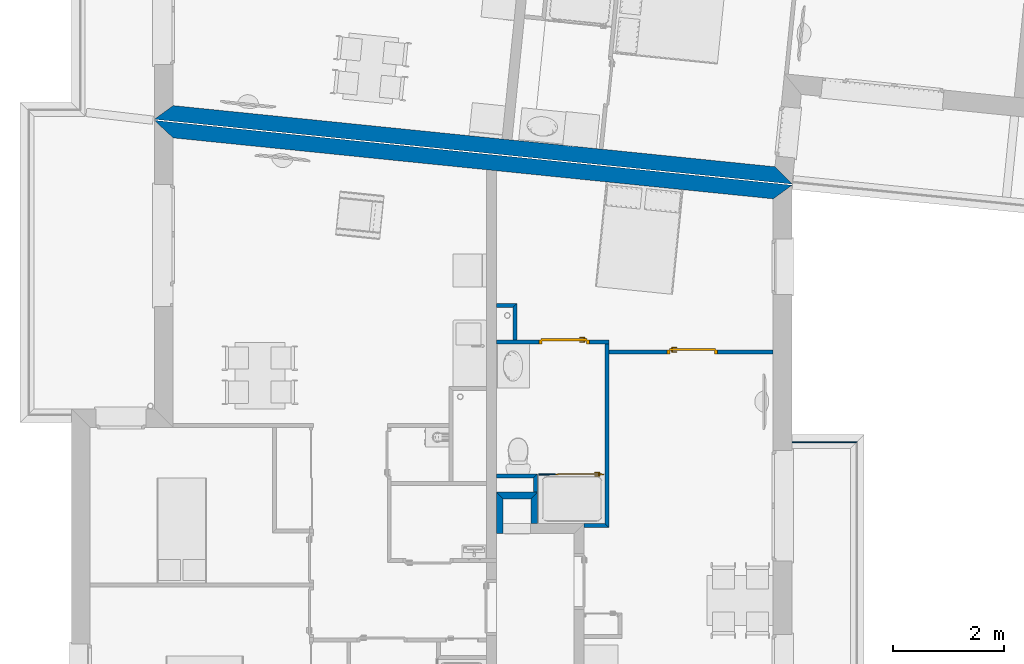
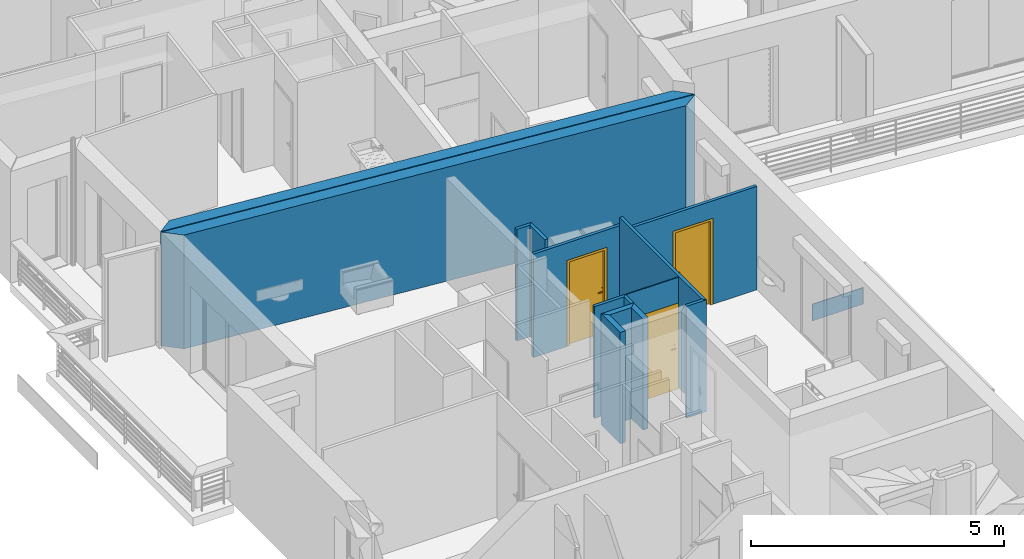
# One storey, part 43 of 164: 15 walls, 3 doors, 3 openings.
"""IFC2X3 building model written with IfcOpenShell, lengths in millimetres."""

from ifc_helpers import new_model, entity, si_unit, converted_unit, derived_unit, money_unit, direction, frame, origin_with_axes, origin_2d_with_axis, place, context, subcontext, project, spatial, polyline, rectangle, outline, extrude, faceted_brep, source, transform, mapped, material, layer, layer_set, layer_usage, type_object, element, fill, save


model = new_model("IFC2X3")

# Units and contexts
model_context = context("Model", 3, precision=0.01, world=origin_with_axes(), true_north=direction((0.0, 1.0)))
body_context = subcontext(model_context, "Body", "Model", "MODEL_VIEW")
ifc_project = project(units=[si_unit("LENGTHUNIT", "METRE", prefix="MILLI"), si_unit("AREAUNIT", "SQUARE_METRE"), si_unit("VOLUMEUNIT", "CUBIC_METRE"), converted_unit("PLANEANGLEUNIT", "DEGREE", entity("IfcPlaneAngleMeasure", 0.0174532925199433), si_unit("PLANEANGLEUNIT", "RADIAN"), dimensions=[0, 0, 0, 0, 0, 0, 0]), money_unit("USD"), converted_unit("TIMEUNIT", "Year", entity("IfcTimeMeasure", 31557600.0), si_unit("TIMEUNIT", "SECOND"), dimensions=[0, 0, 1, 0, 0, 0, 0]), si_unit("MASSUNIT", "GRAM", prefix="KILO"), si_unit("THERMODYNAMICTEMPERATUREUNIT", "DEGREE_CELSIUS"), si_unit("LUMINOUSINTENSITYUNIT", "LUMEN"), si_unit("ENERGYUNIT", "JOULE", prefix="MEGA"), derived_unit("THERMALCONDUCTANCEUNIT", [(si_unit("POWERUNIT", "WATT"), 1), (si_unit("LENGTHUNIT", "METRE"), -1), (si_unit("THERMODYNAMICTEMPERATUREUNIT", "KELVIN"), -1)]), derived_unit("SPECIFICHEATCAPACITYUNIT", [(si_unit("ENERGYUNIT", "JOULE"), 1), (si_unit("MASSUNIT", "GRAM", prefix="KILO"), -1), (si_unit("THERMODYNAMICTEMPERATUREUNIT", "KELVIN"), -1)]), derived_unit("MASSDENSITYUNIT", [(si_unit("MASSUNIT", "GRAM", prefix="KILO"), 1), (si_unit("VOLUMEUNIT", "CUBIC_METRE"), -1)])], contexts=[model_context])

# Site, building, storey
site_placement = place(None, origin_with_axes())
site = spatial("IfcSite", under=ifc_project, at=site_placement, Name="Site", CompositionType="ELEMENT")
building_placement = place(site_placement, origin_with_axes())
building = spatial("IfcBuilding", under=site, at=building_placement, Name="Bâtiment", CompositionType="ELEMENT")
storey_placement = place(building_placement, frame((0.0, 0.0, 5750.0), z_axis=(0.0, 0.0, 1.0), x_axis=(1.0, 0.0, 0.0)))
storey = spatial("IfcBuildingStorey", under=building, at=storey_placement, Name="Etage1", CompositionType="ELEMENT", Elevation=5750.0)

# Walls
ifc_material_1 = material(Name="Hachure solide 268963992")
ifc_layer_1 = layer(ifc_material_1, 70.0, ventilated="UNKNOWN")
ifc_layer_set_1 = layer_set([ifc_layer_1], Name="Cloison 70 0826278243")
ifc_layer_usage_1 = layer_usage(ifc_layer_set_1, "AXIS2", "NEGATIVE", 70.0)
wall_type_1 = type_object("IfcWallType", Name="Cloison 70 0826278243 70", PredefinedType="NOTDEFINED")
wall_1_placement = place(storey_placement, frame((2225054.796152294, -627577.8380544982, 0.0), z_axis=(0.0, 0.0, 1.0), x_axis=(0.0007691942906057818, 0.9999997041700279, 0.0)))
element("IfcWallStandardCase", 1, at=wall_1_placement, inside=storey, type_object=wall_type_1, material=ifc_layer_usage_1, Name="Mur-149", context=body_context, shape_type="SweptSolid", body=[
    extrude(outline(polyline([(0.0, 0.0), (330.478365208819, 0.0), (260.4245008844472, 70.00000000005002), (-0.01101605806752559, 70.00000000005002), (0.0, 0.0)])), origin_with_axes(), (0.0, 0.0, 1.0), 2700.0),
])
ifc_layer_usage_2 = layer_usage(ifc_layer_set_1, "AXIS2", "NEGATIVE", 70.0)
wall_2_placement = place(storey_placement, frame((2224682.35501324, -624827.5295410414, 0.0), z_axis=(0.0, 0.0, 1.0), x_axis=(0.0, 1.0, 0.0)))
element("IfcWallStandardCase", 2, at=wall_2_placement, inside=storey, type_object=wall_type_1, material=ifc_layer_usage_2, Name="Mur-149", context=body_context, shape_type="SweptSolid", body=[
    extrude(outline(polyline([(0.0, 0.0), (658.9671401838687, 0.0), (588.9671401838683, 70.00000000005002), (0.0, 70.00000000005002), (0.0, 0.0)])), origin_with_axes(), (0.0, 0.0, 1.0), 2700.0),
])
ifc_layer_usage_3 = layer_usage(ifc_layer_set_1, "AXIS2", "NEGATIVE", 70.0)
wall_3_placement = place(storey_placement, frame((2225055.050354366, -627247.3597870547, 0.0), z_axis=(0.0, 0.0, 1.0), x_axis=(-1.0, 0.0, 0.0)))
element("IfcWallStandardCase", 3, at=wall_3_placement, inside=storey, type_object=wall_type_1, material=ifc_layer_usage_3, Name="Mur-149", context=body_context, shape_type="SweptSolid", body=[
    extrude(outline(polyline([(1.13686837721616e-10, 0.0), (742.6999882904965, 0.0), (742.6995991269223, 70.00000000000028), (70.05386432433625, 70.00000000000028), (1.13686837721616e-10, 0.0)])), origin_with_axes(), (0.0, 0.0, 1.0), 2700.0),
])
ifc_layer_usage_4 = layer_usage(ifc_layer_set_1, "AXIS2", "NEGATIVE", 70.0)
wall_4_placement = place(storey_placement, frame((2226277.790394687, -628147.4571735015, 0.0), z_axis=(0.0, 0.0, 1.0), x_axis=(-1.0, 0.0, 0.0)))
element("IfcWallStandardCase", 4, at=wall_4_placement, inside=storey, type_object=wall_type_1, material=ifc_layer_usage_4, Name="Mur-149", context=body_context, shape_type="SweptSolid", body=[
    extrude(outline(polyline([(0.0, 0.0), (385.4720379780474, 0.0), (385.4720379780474, 70.00000000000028), (-70.00000000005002, 70.00000000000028), (0.0, 0.0)])), origin_with_axes(), (0.0, 0.0, 1.0), 2700.0),
])

# Wall, opening, door
ifc_layer_usage_5 = layer_usage(ifc_layer_set_1, "AXIS2", "NEGATIVE", 70.0)
wall_5_placement = place(storey_placement, frame((2229653.476038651, -625007.9594470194, 0.0), z_axis=(0.0, 0.0, 1.0), x_axis=(-1.0, 0.0, 0.0)))
wall_5 = element("IfcWallStandardCase", 5, at=wall_5_placement, inside=storey, type_object=wall_type_1, material=ifc_layer_usage_5, Name="Mur-149", context=body_context, shape_type="SweptSolid", body=[
    extrude(outline(polyline([(339.9999999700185, 0.0), (3305.685643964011, 0.0), (3305.685643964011, 70.00000000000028), (339.9999999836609, 70.00000000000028), (339.9999999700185, 0.0)])), origin_with_axes(), (0.0, 0.0, 1.0), 2500.0),
])
opening_1_placement = place(wall_5_placement, frame((1800.577135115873, 0.0, 0.0), z_axis=(0.0, 0.0, 1.0), x_axis=(1.0, 0.0, 0.0)))
opening_1 = element("IfcOpeningElement", 6, at=opening_1_placement, cuts=wall_5, Name="Por-293", context=body_context, shape_type="SweptSolid", body=[
    extrude(rectangle(XDim=910.0, YDim=2080.0, at=origin_2d_with_axis()), frame((0.0, 70.00000000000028, 1040.0), z_axis=(0.0, -1.0, 0.0), x_axis=(-1.0, 0.0, 0.0)), (0.0, 0.0, 1.0), 140.0),
])
door_style = type_object("IfcDoorStyle", Name="Porte_1v", ConstructionType="NOTDEFINED", OperationType="NOTDEFINED", ParameterTakesPrecedence=False, Sizeable=False)
shared_shape_1 = source(origin_with_axes(), body_context, "Body", "Brep", [
    faceted_brep([(455.0, 0.0, 0.0), (415.0000000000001, 0.0, 0.0), (415.0000000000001, 0.0, 2040.0), (-415.0000000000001, 0.0, 2040.0), (-415.0000000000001, 0.0, 0.0), (-455.0, 0.0, 0.0), (-455.0, 0.0, 2080.0), (455.0, 0.0, 2080.0), (455.0, -70.0, 0.0), (400.0, -70.0, 0.0), (400.0, -15.0, 0.0), (415.0000000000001, -15.0, 0.0), (415.0000000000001, -15.0, 2040.0), (-415.0000000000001, -15.0, 2040.0), (-415.0000000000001, -15.0, 0.0), (-400.0, -15.0, 0.0), (-400.0, -70.0, 0.0), (-455.0, -70.0, 0.0), (-455.0, -70.0, 2080.0), (455.0, -70.0, 2080.0), (-400.0, -70.0, 2025.0), (400.0, -70.0, 2025.0), (400.0, -15.0, 2025.0), (-400.0, -15.0, 2025.0)], [[[0, 1, 2, 3, 4, 5, 6, 7]], [[0, 8, 9, 10, 11, 1]], [[1, 11, 12, 2]], [[2, 12, 13, 3]], [[3, 13, 14, 4]], [[5, 4, 14, 15, 16, 17]], [[18, 6, 5, 17]], [[19, 7, 6, 18]], [[8, 0, 7, 19]], [[9, 8, 19, 18, 17, 16, 20, 21]], [[10, 9, 21, 22]], [[11, 10, 22, 23, 15, 14, 13, 12]], [[23, 20, 16, 15]], [[22, 21, 20, 23]]]),
    faceted_brep([(-350.0000000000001, -15.0, 900.0), (-390.0, -15.0, 900.0), (-390.0, -15.0, 1100.0), (-350.0000000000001, -15.0, 1100.0), (-350.0000000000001, -25.0, 900.0), (-390.0, -25.0, 900.0), (-390.0, -25.0, 1100.0), (-350.0000000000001, -25.0, 1100.0)], [[[0, 1, 2, 3]], [[1, 0, 4, 5]], [[2, 1, 5, 6]], [[3, 2, 6, 7]], [[0, 3, 7, 4]], [[5, 4, 7, 6]]]),
    faceted_brep([(-280.0, -25.0, 1000.0), (-380.0, -25.0, 1000.0), (-380.0, -25.0, 1020.0), (-280.0, -25.0, 1020.0), (-280.0, -45.0, 1000.0), (-380.0, -45.0, 1000.0), (-380.0, -45.0, 1020.0), (-280.0, -45.0, 1020.0)], [[[0, 1, 2, 3]], [[1, 0, 4, 5]], [[2, 1, 5, 6]], [[3, 2, 6, 7]], [[0, 3, 7, 4]], [[5, 4, 7, 6]]]),
    faceted_brep([(-350.0000000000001, 35.0, 900.0), (-390.0, 35.0, 900.0), (-390.0, 35.0, 1100.0), (-350.0000000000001, 35.0, 1100.0), (-350.0000000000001, 25.0, 900.0), (-390.0, 25.0, 900.0), (-390.0, 25.0, 1100.0), (-350.0000000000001, 25.0, 1100.0)], [[[0, 1, 2, 3]], [[1, 0, 4, 5]], [[2, 1, 5, 6]], [[3, 2, 6, 7]], [[0, 3, 7, 4]], [[5, 4, 7, 6]]]),
    faceted_brep([(-280.0, 55.00000000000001, 1000.0), (-380.0, 55.00000000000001, 1000.0), (-380.0, 55.00000000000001, 1020.0), (-280.0, 55.00000000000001, 1020.0), (-280.0, 35.0, 1000.0), (-380.0, 35.0, 1000.0), (-380.0, 35.0, 1020.0), (-280.0, 35.0, 1020.0)], [[[0, 1, 2, 3]], [[1, 0, 4, 5]], [[2, 1, 5, 6]], [[3, 2, 6, 7]], [[0, 3, 7, 4]], [[5, 4, 7, 6]]]),
    faceted_brep([(-415.0000000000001, 25.0, 0.0), (415.0000000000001, 25.0, 0.0), (415.0000000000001, -15.0, 0.0), (-415.0000000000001, -15.0, 0.0), (-415.0000000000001, 25.0, 2040.0), (415.0000000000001, 25.0, 2040.0), (415.0000000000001, -15.0, 2040.0), (-415.0000000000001, -15.0, 2040.0)], [[[0, 1, 2, 3]], [[0, 4, 5, 1]], [[1, 5, 6, 2]], [[3, 2, 6, 7]], [[4, 0, 3, 7]], [[5, 4, 7, 6]]]),
])
door_1_placement = place(opening_1_placement, frame((414.9999999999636, 0.0, 0.0), z_axis=(0.0, 0.0, 1.0), x_axis=(-1.0, 0.0, 0.0)))
door_1 = element("IfcDoor", 7, at=door_1_placement, inside=storey, type_object=door_style, Name="Por-293", OverallHeight=2040.0, OverallWidth=830.0, context=body_context, shape_type="MappedRepresentation", body=[
    mapped(shared_shape_1, transform((414.9999999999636, 0.0, 0.0))),
])
fill(opening_1, door_1)

# Walls
ifc_layer_usage_6 = layer_usage(ifc_layer_set_1, "AXIS2", "NEGATIVE", 70.0)
wall_6_placement = place(storey_placement, frame((2224682.35501324, -624168.5624008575, 0.0), z_axis=(0.0, 0.0, 1.0), x_axis=(-1.0, 0.0, 0.0)))
element("IfcWallStandardCase", 8, at=wall_6_placement, inside=storey, type_object=wall_type_1, material=ifc_layer_usage_6, Name="Mur-149", context=body_context, shape_type="SweptSolid", body=[
    extrude(outline(polyline([(0.0, 0.0), (370.0217636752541, 0.0), (370.0213745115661, 70.00000000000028), (70.00000000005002, 70.00000000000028), (0.0, 0.0)])), origin_with_axes(), (0.0, 0.0, 1.0), 2700.0),
])
ifc_layer_usage_7 = layer_usage(ifc_layer_set_1, "AXIS2", "NEGATIVE", 70.0)
wall_7_placement = place(storey_placement, frame((2226277.790394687, -624827.5295410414, 0.0), z_axis=(0.0, 0.0, 1.0), x_axis=(0.0, -1.0, 0.0)))
element("IfcWallStandardCase", 9, at=wall_7_placement, inside=storey, type_object=wall_type_1, material=ifc_layer_usage_7, Name="Mur-149", context=body_context, shape_type="SweptSolid", body=[
    extrude(outline(polyline([(70.00000000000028, 0.0), (3319.927632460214, 0.0), (3389.927632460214, 70.00000000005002), (70.00000000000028, 70.00000000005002), (70.00000000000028, 0.0)])), origin_with_axes(), (0.0, 0.0, 1.0), 2700.0),
])

# Wall, opening, door
ifc_layer_usage_8 = layer_usage(ifc_layer_set_1, "AXIS2", "NEGATIVE", 70.0)
wall_8_placement = place(storey_placement, frame((2226347.790394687, -624827.5295410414, 0.0), z_axis=(0.0, 0.0, 1.0), x_axis=(-1.0, 0.0, 0.0)))
wall_8 = element("IfcWallStandardCase", 10, at=wall_8_placement, inside=storey, type_object=wall_type_1, material=ifc_layer_usage_8, Name="Mur-149", context=body_context, shape_type="SweptSolid", body=[
    extrude(outline(polyline([(0.0, 0.0), (2035.247016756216, 0.0), (2035.247016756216, 70.00000000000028), (0.0, 70.00000000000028), (0.0, 0.0)])), origin_with_axes(), (0.0, 0.0, 1.0), 2500.0),
])
opening_2_placement = place(wall_8_placement, frame((810.9187417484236, 0.0, 0.0), z_axis=(0.0, 0.0, 1.0), x_axis=(1.0, 0.0, 0.0)))
opening_2 = element("IfcOpeningElement", 11, at=opening_2_placement, cuts=wall_8, Name="Por-293", context=body_context, shape_type="SweptSolid", body=[
    extrude(rectangle(XDim=910.0, YDim=2080.0, at=origin_2d_with_axis()), frame((0.0, 70.00000000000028, 1040.0), z_axis=(0.0, 1.0, 0.0), x_axis=(1.0, 0.0, 0.0)), (0.0, 0.0, -1.0), 140.0),
])
shared_shape_2 = source(origin_with_axes(), body_context, "Body", "Brep", [
    faceted_brep([(-454.9999999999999, 0.0, 0.0), (-454.9999999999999, 0.0, 2080.0), (454.9999999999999, 0.0, 2080.0), (454.9999999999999, 0.0, 0.0), (414.9999999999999, 0.0, 0.0), (414.9999999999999, 0.0, 2040.0), (-414.9999999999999, 0.0, 2040.0), (-414.9999999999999, 0.0, 0.0), (-454.9999999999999, -69.99999999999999, 0.0), (-454.9999999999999, -69.99999999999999, 2080.0), (454.9999999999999, -69.99999999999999, 2080.0), (454.9999999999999, -69.99999999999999, 0.0), (399.9999999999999, -69.99999999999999, 0.0), (399.9999999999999, -15.0, 0.0), (414.9999999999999, -15.0, 0.0), (414.9999999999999, -15.0, 2040.0), (-414.9999999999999, -14.99999999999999, 2040.0), (-414.9999999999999, -14.99999999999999, 0.0), (-399.9999999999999, -14.99999999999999, 0.0), (-399.9999999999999, -69.99999999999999, 0.0), (-399.9999999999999, -69.99999999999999, 2025.0), (399.9999999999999, -69.99999999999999, 2025.0), (399.9999999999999, -15.0, 2025.0), (-399.9999999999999, -14.99999999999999, 2025.0)], [[[0, 1, 2, 3, 4, 5, 6, 7]], [[8, 9, 1, 0]], [[9, 10, 2, 1]], [[10, 11, 3, 2]], [[3, 11, 12, 13, 14, 4]], [[5, 4, 14, 15]], [[6, 5, 15, 16]], [[7, 6, 16, 17]], [[0, 7, 17, 18, 19, 8]], [[19, 20, 21, 12, 11, 10, 9, 8]], [[22, 13, 12, 21]], [[17, 16, 15, 14, 13, 22, 23, 18]], [[18, 23, 20, 19]], [[23, 22, 21, 20]]]),
    faceted_brep([(350.0, -15.0, 900.0), (350.0, -15.0, 1100.0), (389.9999999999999, -15.0, 1100.0), (389.9999999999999, -15.0, 900.0), (350.0, -25.0, 900.0), (350.0, -25.0, 1100.0), (389.9999999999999, -25.0, 1100.0), (389.9999999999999, -25.0, 900.0)], [[[0, 1, 2, 3]], [[0, 4, 5, 1]], [[1, 5, 6, 2]], [[2, 6, 7, 3]], [[3, 7, 4, 0]], [[7, 6, 5, 4]]]),
    faceted_brep([(279.9999999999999, -25.0, 1000.0), (279.9999999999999, -25.0, 1020.0), (379.9999999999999, -25.0, 1020.0), (379.9999999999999, -25.0, 1000.0), (279.9999999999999, -45.0, 1000.0), (279.9999999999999, -45.0, 1020.0), (379.9999999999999, -45.0, 1020.0), (379.9999999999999, -45.0, 1000.0)], [[[0, 1, 2, 3]], [[0, 4, 5, 1]], [[1, 5, 6, 2]], [[2, 6, 7, 3]], [[3, 7, 4, 0]], [[7, 6, 5, 4]]]),
    faceted_brep([(350.0, 34.99999999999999, 900.0), (350.0, 34.99999999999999, 1100.0), (389.9999999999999, 34.99999999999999, 1100.0), (389.9999999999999, 34.99999999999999, 900.0), (350.0, 24.99999999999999, 900.0), (350.0, 24.99999999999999, 1100.0), (389.9999999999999, 24.99999999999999, 1100.0), (389.9999999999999, 24.99999999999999, 900.0)], [[[0, 1, 2, 3]], [[0, 4, 5, 1]], [[1, 5, 6, 2]], [[2, 6, 7, 3]], [[3, 7, 4, 0]], [[7, 6, 5, 4]]]),
    faceted_brep([(279.9999999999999, 54.99999999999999, 1000.0), (279.9999999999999, 54.99999999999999, 1020.0), (379.9999999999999, 54.99999999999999, 1020.0), (379.9999999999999, 54.99999999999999, 1000.0), (279.9999999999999, 34.99999999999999, 1000.0), (279.9999999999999, 34.99999999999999, 1020.0), (379.9999999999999, 34.99999999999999, 1020.0), (379.9999999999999, 34.99999999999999, 1000.0)], [[[0, 1, 2, 3]], [[0, 4, 5, 1]], [[1, 5, 6, 2]], [[2, 6, 7, 3]], [[3, 7, 4, 0]], [[7, 6, 5, 4]]]),
    faceted_brep([(414.9999999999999, 24.99999999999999, 0.0), (414.9999999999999, -15.0, 0.0), (-414.9999999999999, -14.99999999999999, 0.0), (-414.9999999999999, 25.0, 0.0), (414.9999999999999, 24.99999999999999, 2040.0), (414.9999999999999, -15.0, 2040.0), (-414.9999999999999, -14.99999999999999, 2040.0), (-414.9999999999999, 25.0, 2040.0)], [[[0, 1, 2, 3]], [[4, 5, 1, 0]], [[1, 5, 6, 2]], [[3, 2, 6, 7]], [[0, 3, 7, 4]], [[7, 6, 5, 4]]]),
])
door_2_placement = place(opening_2_placement, frame((414.9999999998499, 0.0, 0.0), z_axis=(0.0, 0.0, 1.0), x_axis=(-1.0, 0.0, 0.0)))
door_2 = element("IfcDoor", 12, at=door_2_placement, inside=storey, type_object=door_style, Name="Por-293", OverallHeight=2040.0, OverallWidth=830.0, context=body_context, shape_type="MappedRepresentation", body=[
    mapped(shared_shape_2, transform((414.9999999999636, 0.0, 0.0))),
])
fill(opening_2, door_2)

# Walls
ifc_material_2 = material(Name="MANQUANT")
ifc_layer_2 = layer(ifc_material_2, 20.0, ventilated="UNKNOWN")
ifc_layer_set_2 = layer_set([ifc_layer_2], Name="MANQUANT 20")
ifc_layer_usage_9 = layer_usage(ifc_layer_set_2, "AXIS2", "NEGATIVE", 20.0)
wall_type_2 = type_object("IfcWallType", Name="MANQUANT 20", PredefinedType="NOTDEFINED")
wall_9_placement = place(storey_placement, frame((2230830.389056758, -626665.1423823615, 99.99999999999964), z_axis=(0.0, 0.0, 1.0), x_axis=(-1.0, 0.0, 0.0)))
element("IfcWallStandardCase", 13, at=wall_9_placement, inside=storey, type_object=wall_type_2, material=ifc_layer_usage_9, Name="Mur-161", context=body_context, shape_type="SweptSolid", body=[
    extrude(outline(polyline([(0.0, 0.0), (1176.913018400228, 0.0), (1176.913018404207, 20.00000000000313), (19.99999999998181, 20.00000000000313), (0.0, 0.0)])), origin_with_axes(), (0.0, 0.0, 1.0), 400.0),
])
ifc_material_3 = material(Name="Parpaing 312445824")
ifc_layer_3 = layer(ifc_material_3, 180.0, ventilated="UNKNOWN")
ifc_material_4 = material(Name="Isolant styromousse 301821074")
ifc_layer_4 = layer(ifc_material_4, 100.0, ventilated="UNKNOWN")
ifc_layer_set_3 = layer_set([ifc_layer_3, ifc_layer_4], Name="isol int 18+10 0018356637")
ifc_layer_usage_10 = layer_usage(ifc_layer_set_3, "AXIS2", "POSITIVE", 0.0)
wall_type_3 = type_object("IfcWallType", Name="isol int 18+10 0018356637 280", PredefinedType="NOTDEFINED")
wall_10_placement = place(storey_placement, frame((2218134.233344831, -620841.7958940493, 0.0), z_axis=(0.0, 0.0, 1.0), x_axis=(0.9948759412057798, -0.101103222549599, 0.0)))
element("IfcWallStandardCase", 14, at=wall_10_placement, inside=storey, type_object=wall_type_3, material=ifc_layer_usage_10, Name="Mur-145", context=body_context, shape_type="SweptSolid", body=[
    extrude(outline(polyline([(0.0, 0.0), (11580.60445642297, 0.0), (11240.60445628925, 280.0000000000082), (313.2964471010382, 280.0000000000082), (0.0, 0.0)])), origin_with_axes(), (0.0, 0.0, 1.0), 2750.0),
])
ifc_layer_usage_11 = layer_usage(ifc_layer_set_3, "AXIS2", "POSITIVE", 0.0)
wall_11_placement = place(storey_placement, frame((2229653.476039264, -622032.5298369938, 0.0), z_axis=(0.0, 0.0, 1.0), x_axis=(-0.9948759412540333, 0.1011032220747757, 0.0)))
element("IfcWallStandardCase", 15, at=wall_11_placement, inside=storey, type_object=wall_type_3, material=ifc_layer_usage_11, Name="Mur-145", context=body_context, shape_type="SweptSolid", body=[
    extrude(outline(polyline([(2.273736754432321e-10, 0.0), (11578.57197743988, 0.0), (11208.36598310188, 280.0000000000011), (313.2964472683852, 280.0000000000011), (2.273736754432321e-10, 0.0)])), origin_with_axes(), (0.0, 0.0, 1.0), 2750.0),
])
ifc_material_5 = material(Name="AS_EMPTY 272048125")
ifc_layer_5 = layer(ifc_material_5, 20.0, ventilated="UNKNOWN")
ifc_material_6 = material(Name="Isolant styromousse 275581351")
ifc_layer_6 = layer(ifc_material_6, 80.0, ventilated="UNKNOWN")
ifc_layer_7 = layer(ifc_material_5, 20.0, ventilated="UNKNOWN")
ifc_layer_set_4 = layer_set([ifc_layer_5, ifc_layer_6, ifc_layer_7], Name="SAA 120")
ifc_layer_usage_12 = layer_usage(ifc_layer_set_4, "AXIS2", "POSITIVE", 0.0)
wall_type_4 = type_object("IfcWallType", Name="SAA 120 120", PredefinedType="NOTDEFINED")
wall_12_placement = place(storey_placement, frame((2224312.31835671, -627577.3837901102, 0.0), z_axis=(0.0, 0.0, 1.0), x_axis=(0.0, -1.0, 0.0)))
element("IfcWallStandardCase", 16, at=wall_12_placement, inside=storey, type_object=wall_type_4, material=ifc_layer_usage_12, Name="Mur-156", context=body_context, shape_type="SweptSolid", body=[
    extrude(outline(polyline([(0.0, 0.0), (749.9541384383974, 0.0), (749.9541384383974, 120.0000000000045), (120.0734411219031, 120.0000000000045), (0.0, 0.0)])), origin_with_axes(), (0.0, 0.0, 1.0), 2690.0),
])
ifc_layer_usage_13 = layer_usage(ifc_layer_set_4, "AXIS2", "NEGATIVE", 0.0)
wall_13_placement = place(storey_placement, frame((2225054.796152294, -627577.8380544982, 0.0), z_axis=(0.0, 0.0, 1.0), x_axis=(0.0, -1.0, 0.0)))
element("IfcWallStandardCase", 17, at=wall_13_placement, inside=storey, type_object=wall_type_4, material=ifc_layer_usage_13, Name="Mur-156", context=body_context, shape_type="SweptSolid", body=[
    extrude(outline(polyline([(119.9266037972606, -120.0000000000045), (569.6191190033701, -120.0000000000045), (569.6191190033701, 0.0), (0.0, 0.0), (119.9266037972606, -120.0000000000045)])), origin_with_axes(), (0.0, 0.0, 1.0), 2690.0),
])
ifc_layer_usage_14 = layer_usage(ifc_layer_set_4, "AXIS2", "NEGATIVE", 0.0)
wall_14_placement = place(storey_placement, frame((2224312.31835671, -627577.3837901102, 0.0), z_axis=(0.0, 0.0, 1.0), x_axis=(0.9999998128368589, -0.0006118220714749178, 0.0)))
element("IfcWallStandardCase", 18, at=wall_14_placement, inside=storey, type_object=wall_type_4, material=ifc_layer_usage_14, Name="Mur-156", context=body_context, shape_type="SweptSolid", body=[
    extrude(outline(polyline([(120.0734411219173, -120.0000000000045), (622.5513307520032, -119.9999999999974), (742.4779345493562, 0.0), (0.0, 0.0), (120.0734411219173, -120.0000000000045)])), origin_with_axes(), (0.0, 0.0, 1.0), 2690.0),
])

# Wall, opening, door
ifc_material_7 = material(Name="Empty Fill 292498448")
ifc_layer_8 = layer(ifc_material_7, 20.0, ventilated="UNKNOWN")
ifc_layer_set_5 = layer_set([ifc_layer_8], Name="mur 2cm")
ifc_layer_usage_15 = layer_usage(ifc_layer_set_5, "AXIS2", "NEGATIVE", 20.0)
wall_type_5 = type_object("IfcWallType", Name="mur 2cm 20", PredefinedType="NOTDEFINED")
wall_15_placement = place(storey_placement, frame((2226257.718248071, -627246.9632623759, 0.0), z_axis=(0.0, 0.0, 1.0), x_axis=(-0.999999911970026, -0.0004195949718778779, 0.0)))
wall_15 = element("IfcWallStandardCase", 19, at=wall_15_placement, inside=storey, type_object=wall_type_5, material=ifc_layer_usage_15, Name="Mur-148", context=body_context, shape_type="SweptSolid", body=[
    extrude(outline(polyline([(0.0, 0.0), (1180.110441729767, 0.0), (1180.110441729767, 19.99999999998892), (-1.13686837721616e-10, 19.99999999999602), (0.0, 0.0)])), origin_with_axes(), (0.0, 0.0, 1.0), 2700.0),
])
opening_3_placement = place(wall_15_placement, frame((439.9999999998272, 0.0, 0.0), z_axis=(0.0, 0.0, 1.0), x_axis=(1.0, 0.0, 0.0)))
opening_3 = element("IfcOpeningElement", 20, at=opening_3_placement, cuts=wall_15, Name="Por-288", context=body_context, shape_type="SweptSolid", body=[
    extrude(rectangle(XDim=880.0000119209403, YDim=2080.0, at=origin_2d_with_axis()), frame((5.960487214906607e-06, 20.00000000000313, 1040.0), z_axis=(0.0, 1.0, 0.0), x_axis=(1.0, 0.0, 0.0)), (0.0, 0.0, -1.0), 40.0),
])
shared_shape_3 = source(origin_with_axes(), body_context, "Body", "Brep", [
    faceted_brep([(-440.0, 0.0, 0.0), (-440.0, 0.0, 2080.0), (440.0, 0.0, 2080.0), (440.0, 0.0, 0.0), (400.0, 0.0, 0.0), (400.0, 0.0, 2040.0), (-400.0, 0.0, 2040.0), (-400.0, 0.0, 0.0), (-440.0, -20.0, 0.0), (-440.0, -20.0, 2080.0), (440.0, -20.0, 2080.0), (440.0, -20.0, 0.0), (385.0, -20.0, 0.0), (385.0, -15.0, 0.0), (400.0, -15.0, 0.0), (400.0, -15.0, 2040.0), (-400.0, -15.0, 2040.0), (-400.0, -15.0, 0.0), (-385.0, -15.0, 0.0), (-385.0, -20.0, 0.0), (-385.0, -20.0, 2025.0), (385.0, -20.0, 2025.0), (385.0, -15.0, 2025.0), (-385.0, -15.0, 2025.0)], [[[0, 1, 2, 3, 4, 5, 6, 7]], [[8, 9, 1, 0]], [[9, 10, 2, 1]], [[10, 11, 3, 2]], [[3, 11, 12, 13, 14, 4]], [[5, 4, 14, 15]], [[6, 5, 15, 16]], [[7, 6, 16, 17]], [[0, 7, 17, 18, 19, 8]], [[19, 20, 21, 12, 11, 10, 9, 8]], [[22, 13, 12, 21]], [[17, 16, 15, 14, 13, 22, 23, 18]], [[18, 23, 20, 19]], [[23, 22, 21, 20]]]),
    faceted_brep([(335.0, -15.0, 900.0), (335.0, -15.0, 1100.0), (375.0, -15.0, 1100.0), (375.0, -15.0, 900.0), (335.0, -25.0, 900.0), (335.0, -25.0, 1100.0), (375.0, -25.0, 1100.0), (375.0, -25.0, 900.0)], [[[0, 1, 2, 3]], [[0, 4, 5, 1]], [[1, 5, 6, 2]], [[2, 6, 7, 3]], [[3, 7, 4, 0]], [[7, 6, 5, 4]]]),
    faceted_brep([(265.0, -25.0, 1000.0), (265.0, -25.0, 1020.0), (365.0, -25.0, 1020.0), (365.0, -25.0, 1000.0), (265.0, -45.0, 1000.0), (265.0, -45.0, 1020.0), (365.0, -45.0, 1020.0), (365.0, -45.0, 1000.0)], [[[0, 1, 2, 3]], [[0, 4, 5, 1]], [[1, 5, 6, 2]], [[2, 6, 7, 3]], [[3, 7, 4, 0]], [[7, 6, 5, 4]]]),
    faceted_brep([(335.0, 15.0, 900.0), (335.0, 15.0, 1100.0), (375.0, 15.0, 1100.0), (375.0, 15.0, 900.0), (335.0, 5.000000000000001, 900.0), (335.0, 5.000000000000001, 1100.0), (375.0, 5.000000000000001, 1100.0), (375.0, 5.000000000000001, 900.0)], [[[0, 1, 2, 3]], [[0, 4, 5, 1]], [[1, 5, 6, 2]], [[2, 6, 7, 3]], [[3, 7, 4, 0]], [[7, 6, 5, 4]]]),
    faceted_brep([(265.0, 35.0, 1000.0), (265.0, 35.0, 1020.0), (365.0, 35.0, 1020.0), (365.0, 35.0, 1000.0), (265.0, 15.0, 1000.0), (265.0, 15.0, 1020.0), (365.0, 15.0, 1020.0), (365.0, 15.0, 1000.0)], [[[0, 1, 2, 3]], [[0, 4, 5, 1]], [[1, 5, 6, 2]], [[2, 6, 7, 3]], [[3, 7, 4, 0]], [[7, 6, 5, 4]]]),
    faceted_brep([(400.0, 5.000000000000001, 0.0), (400.0, -15.0, 0.0), (-400.0, -15.0, 0.0), (-400.0, 5.000000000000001, 0.0), (400.0, 5.000000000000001, 2040.0), (400.0, -15.0, 2040.0), (-400.0, -15.0, 2040.0), (-400.0, 5.000000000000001, 2040.0)], [[[0, 1, 2, 3]], [[4, 5, 1, 0]], [[1, 5, 6, 2]], [[3, 2, 6, 7]], [[0, 3, 7, 4]], [[7, 6, 5, 4]]]),
])
door_3_placement = place(opening_3_placement, frame((400.0000000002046, 0.0, 0.0), z_axis=(0.0, 0.0, 1.0), x_axis=(-1.0, 0.0, 0.0)))
door_3 = element("IfcDoor", 21, at=door_3_placement, inside=storey, type_object=door_style, Name="Por-288", OverallHeight=2040.0, OverallWidth=800.0, context=body_context, shape_type="MappedRepresentation", body=[
    mapped(shared_shape_3, transform((399.9999999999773, 0.0, 0.0))),
])
fill(opening_3, door_3)

save(model, "model.ifc")
